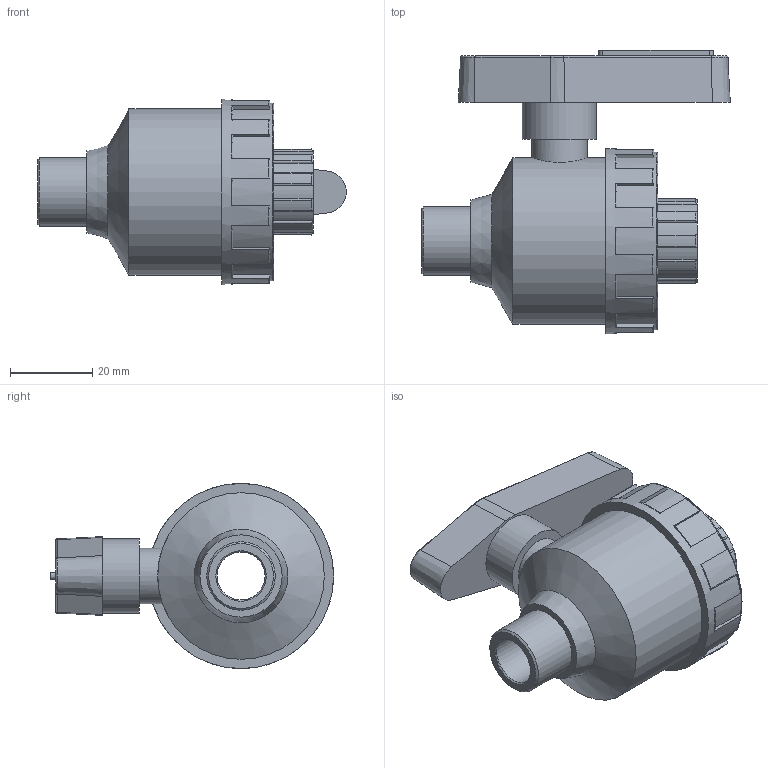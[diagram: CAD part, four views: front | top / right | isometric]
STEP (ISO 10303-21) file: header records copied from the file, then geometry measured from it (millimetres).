
FILE_DESCRIPTION(/* description */ ('PLASSON ONE NUT VALVE MALE-FEMALE ADAPTOR 3/8" PVC'),/* implementation_level */ '2;1');
FILE_NAME(/* name */ 'C:\Dropbox\KIMPROJECTS-Inventor\99-16-3568-Processing\PVC Catalog 2017\113610\11361003.ipt.stp',/* time_stamp */ '2017-12-07T16:12:15+02:00',/* author */ ('KIM'),/* organization */ (''),/* preprocessor_version */ 'ST-DEVELOPER v15.6',/* originating_system */ 'Autodesk Inventor 2015',/* authorisation */ '');
FILE_SCHEMA (('AUTOMOTIVE_DESIGN { 1 0 10303 214 3 1 1 }'));
Length unit declared in the file: millimetre
Products named in the file (1): 11361003
Bounding box: 75.07 x 68.85 x 45 mm (x, y, z)
Volume: 64742 mm3; surface area: 15903.1 mm2
Topology: 1 solids, 1 shells, 168 faces, 442 edges, 284 vertices
Faces by surface type: plane 65, cylinder 55, torus 29, cone 19
Full cylindrical faces by diameter (mm): 11.663 x1, 11.96 x1, 13.5 x1, 14.95 x1, 16.662 x1, 18 x1, 40.5 x1, 43.2 x1, 45 x1
Entity records: 5658 total; most frequent: CARTESIAN_POINT 1552, DIRECTION 876, ORIENTED_EDGE 840, EDGE_CURVE 420, AXIS2_PLACEMENT_3D 356, VERTEX_POINT 278, EDGE_LOOP 194, CIRCLE 187
